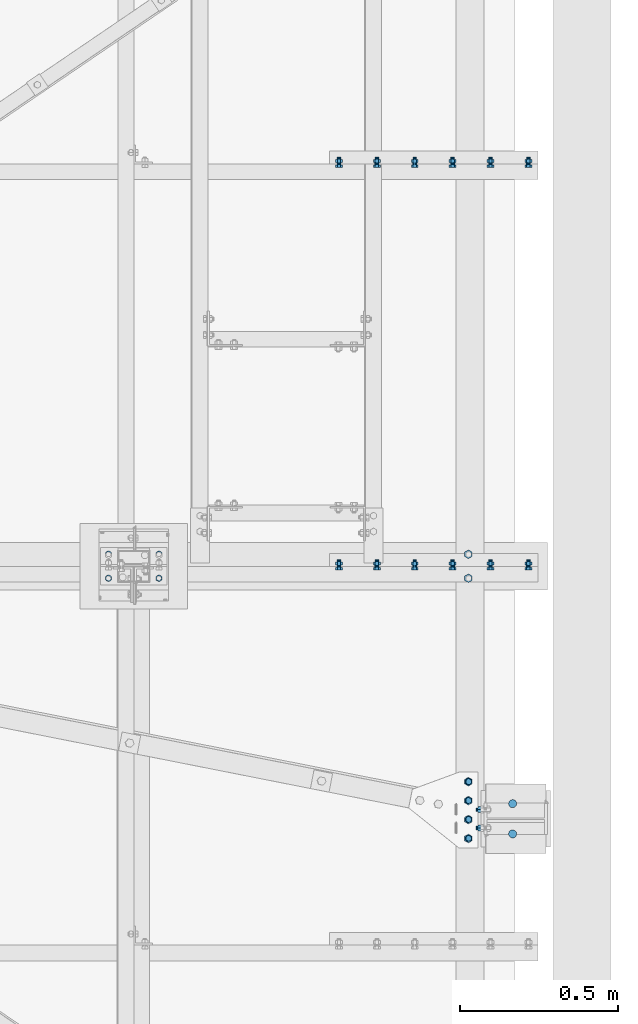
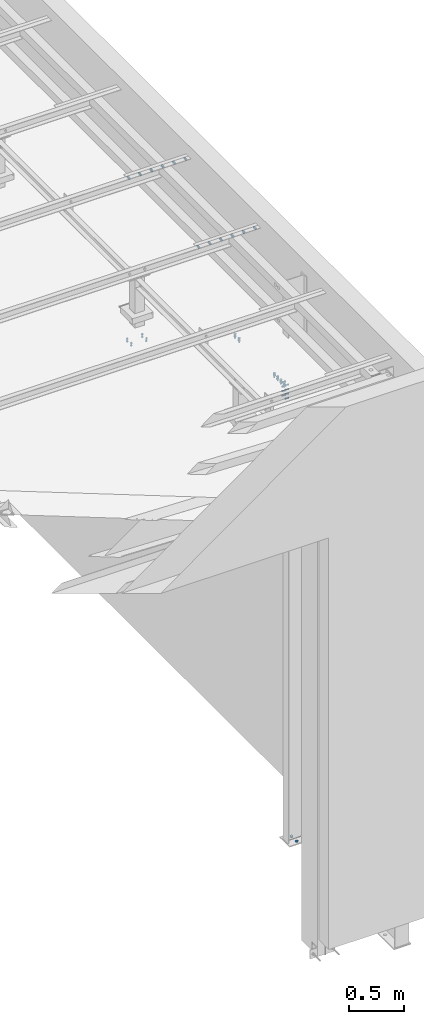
# One storey, part 342 of 3134: 8 mechanical fasteners, 6 elements without a shape of their own.
"""IFC2X3 building model written with IfcOpenShell, lengths in millimetres."""

import ifcopenshell
import ifcopenshell.guid

model = None  # the IFC model being written
_history = None  # IfcOwnerHistory: only IFC2X3 demands one
_inside = {}  # id of a spatial element -> (the spatial element, [elements in it])
_under = {}  # id of a project, library or spatial element -> (it, [spatial elements below it])
_declared = {}  # id of a project -> (the project, [libraries it declares])
_typed = {}  # id of a type object -> (the type object, [elements of that type])
_made_of = {}  # id of a material, layer set ... -> (it, [elements and type objects made of it])


def new_model(schema):
    """Start an empty IFC model of exactly this schema.

    Asked for "IFC4X3", IfcOpenShell would pick the latest addendum, in which some entities
    have other attributes; the version numbers below select the first issue.
    IFC2X3 requires an IfcOwnerHistory on every rooted entity: one is made here for all.
    """
    global model, _history
    if schema == "IFC4X3":
        model = ifcopenshell.file(schema_version=(4, 3, 0, 0))
    else:
        model = ifcopenshell.file(schema=schema)
    _inside.clear()
    _under.clear()
    _declared.clear()
    _typed.clear()
    _made_of.clear()
    _history = None
    if model.schema == "IFC2X3":
        org = make("IfcOrganization", Name="unknown")
        user = make(
            "IfcPersonAndOrganization",
            ThePerson=make("IfcPerson", FamilyName="unknown"),
            TheOrganization=org,
        )
        app = make(
            "IfcApplication",
            ApplicationDeveloper=org,
            Version="unknown",
            ApplicationFullName="unknown",
            ApplicationIdentifier="unknown",
        )
        _history = make(
            "IfcOwnerHistory",
            OwningUser=user,
            OwningApplication=app,
            ChangeAction="ADDED",
            CreationDate=0,
        )
    return model


def make(cls, **values):
    """One entity of the class cls with the attributes given. An attribute that is None is left unset."""
    return model.create_entity(
        cls, **{name: value for name, value in values.items() if value is not None}
    )


def rooted(cls, **values):
    """An entity with a GlobalId (a new one), such as an element, a storey or a relation."""
    return make(cls, GlobalId=ifcopenshell.guid.new(), OwnerHistory=_history, **values)


def si_unit(unit_type, name, prefix=None):
    """IfcSIUnit, for example si_unit("LENGTHUNIT", "METRE", prefix="MILLI")."""
    return make("IfcSIUnit", UnitType=unit_type, Prefix=prefix, Name=name)


def assignment(units):
    """IfcUnitAssignment: the units of a project."""
    return None if units is None else make("IfcUnitAssignment", Units=units)


def point(xyz):
    """IfcCartesianPoint."""
    return None if xyz is None else make("IfcCartesianPoint", Coordinates=xyz)


def direction(xyz):
    """IfcDirection."""
    return None if xyz is None else make("IfcDirection", DirectionRatios=xyz)


def frame(location, z_axis=None, x_axis=None):
    """IfcAxis2Placement3D, a coordinate frame: its origin and axes. An axis left out is left unset."""
    return make(
        "IfcAxis2Placement3D",
        Location=point(location),
        Axis=direction(z_axis),
        RefDirection=direction(x_axis),
    )


def origin_with_axes():
    """The frame at (0, 0, 0) with the z axis (0, 0, 1) and the x axis (1, 0, 0) written out."""
    return frame((0.0, 0.0, 0.0), z_axis=(0.0, 0.0, 1.0), x_axis=(1.0, 0.0, 0.0))


def place(relative_to, where):
    """IfcLocalPlacement: puts the frame where relative to a parent placement (None: the world)."""
    return make(
        "IfcLocalPlacement", PlacementRelTo=relative_to, RelativePlacement=where
    )


def context(
    kind, dimensions, precision=None, world=None, true_north=None, identifier=None
):
    """IfcGeometricRepresentationContext, for example the 3D "Model" context."""
    return make(
        "IfcGeometricRepresentationContext",
        ContextIdentifier=identifier,
        ContextType=kind,
        CoordinateSpaceDimension=dimensions,
        Precision=precision,
        WorldCoordinateSystem=world,
        TrueNorth=true_north,
    )


def subcontext(parent, identifier, kind, view, scale=None):
    """IfcGeometricRepresentationSubContext, for example "Body" below "Model"."""
    return make(
        "IfcGeometricRepresentationSubContext",
        ContextIdentifier=identifier,
        ContextType=kind,
        ParentContext=parent,
        TargetScale=scale,
        TargetView=view,
    )


def project(units=None, contexts=None):
    """IfcProject with its units and contexts."""
    return rooted(
        "IfcProject",
        Name="project",
        RepresentationContexts=contexts,
        UnitsInContext=assignment(units),
    )


def spatial(cls, under=None, at=None, **own):
    """A site, building, storey or space (cls), placed at a placement, below another one or the project."""
    s = rooted(cls, ObjectPlacement=at, **own)
    if under is not None:
        _under.setdefault(under.id(), (under, []))[1].append(s)
    return s


def faces_of(points, faces, orient=None, outer=None):
    """IfcFace entities. A face is a list of loops; a loop is a list of indices into points, from 0.

    orient and outer hold one flag for each loop. By default every Orientation is true, the
    first loop of a face is its IfcFaceOuterBound and the others are IfcFaceBound.
    """
    made = []
    for i, loops in enumerate(faces):
        bounds = []
        for j, loop in enumerate(loops):
            is_outer = j == 0 if outer is None else outer[i][j]
            bounds.append(
                make(
                    "IfcFaceOuterBound" if is_outer else "IfcFaceBound",
                    Bound=make("IfcPolyLoop", Polygon=[points[k] for k in loop]),
                    Orientation=True if orient is None else orient[i][j],
                )
            )
        made.append(make("IfcFace", Bounds=bounds))
    return made


def faceted_brep(points, faces, orient=None, outer=None, voids=None):
    """IfcFacetedBrep: a solid bounded by flat faces; with voids (closed shells), ...WithVoids."""
    shared = [point(p) for p in points]
    hull = make("IfcClosedShell", CfsFaces=faces_of(shared, faces, orient, outer))
    if voids is None:
        return make("IfcFacetedBrep", Outer=hull)
    return make(
        "IfcFacetedBrepWithVoids",
        Outer=hull,
        Voids=[
            make(cls, CfsFaces=faces_of(shared, fs, o, b)) for cls, fs, o, b in voids
        ],
    )


def shape(context_of_items, identifier, shape_type, items):
    """IfcShapeRepresentation: the items that make up one representation, for example the "Body"."""
    return make(
        "IfcShapeRepresentation",
        ContextOfItems=context_of_items,
        RepresentationIdentifier=identifier,
        RepresentationType=shape_type,
        Items=items,
    )


def source(mapping_origin, context_of_items, identifier, shape_type, items):
    """IfcRepresentationMap: a shape defined once, which mapped items show again and again."""
    return make(
        "IfcRepresentationMap",
        MappingOrigin=mapping_origin,
        MappedRepresentation=shape(context_of_items, identifier, shape_type, items),
    )


def transform(
    local_origin,
    x_axis=None,
    y_axis=None,
    z_axis=None,
    scale=None,
    scale2=None,
    scale3=None,
    uniform=True,
):
    """IfcCartesianTransformationOperator3D, or its non-uniform kind. x_axis, y_axis, z_axis: its Axis1, 2, 3."""
    if uniform:
        return make(
            "IfcCartesianTransformationOperator3D",
            Axis1=direction(x_axis),
            Axis2=direction(y_axis),
            LocalOrigin=point(local_origin),
            Scale=scale,
            Axis3=direction(z_axis),
        )
    return make(
        "IfcCartesianTransformationOperator3DnonUniform",
        Axis1=direction(x_axis),
        Axis2=direction(y_axis),
        LocalOrigin=point(local_origin),
        Scale=scale,
        Axis3=direction(z_axis),
        Scale2=scale2,
        Scale3=scale3,
    )


def mapped(mapping_source, mapping_target):
    """IfcMappedItem: shows the shape of a source again, moved by a transform."""
    return make(
        "IfcMappedItem", MappingSource=mapping_source, MappingTarget=mapping_target
    )


def material(Name=None, Category=None):
    """IfcMaterial."""
    return make("IfcMaterial", Name=Name, Category=Category)


def made_of(thing, what):
    """Note that an element or type object is made of a material, layer set ...; save() writes the relation."""
    if what is not None:
        _made_of.setdefault(what.id(), (what, []))[1].append(thing)
    return thing


def type_object(cls, material=None, **own):
    """A type object (cls), such as IfcWallType, which elements share."""
    return made_of(rooted(cls, **own), material)


def element(
    cls,
    number,
    at=None,
    inside=None,
    cuts=None,
    type_object=None,
    material=None,
    context=None,
    identifier="Body",
    shape_type=None,
    held_by="IfcProductDefinitionShape",
    body=None,
    shapes=None,
    **own,
):
    """One element of the class cls, such as IfcWall. Its Tag is "e" and its number.

    at: its placement. inside: the storey or other place that contains it. cuts: it is an
    opening in that element (IfcRelVoidsElement). A single representation is given by context,
    identifier, shape_type and body (its items); several are given by shapes. held_by: the class
    of the entity that holds the representations. save() writes the other relations.
    """
    e = rooted(cls, Tag="e%d" % number, ObjectPlacement=at, **own)
    if body is not None:
        shapes = [shape(context, identifier, shape_type, body)]
    if shapes is not None:
        e.Representation = make(held_by, Representations=shapes)
    if inside is not None:
        _inside.setdefault(inside.id(), (inside, []))[1].append(e)
    if cuts is not None:
        rooted(
            "IfcRelVoidsElement", RelatingBuildingElement=cuts, RelatedOpeningElement=e
        )
    if type_object is not None:
        _typed.setdefault(type_object.id(), (type_object, []))[1].append(e)
    return made_of(e, material)


def aggregate(whole, parts):
    """IfcRelAggregates: a whole, such as a stair, and the parts it consists of."""
    return rooted("IfcRelAggregates", RelatingObject=whole, RelatedObjects=parts)


def save(model, path):
    """Write the relations noted so far, then the file.

    IfcRelAggregates (storeys below a building ...), IfcRelContainedInSpatialStructure (elements
    in a storey), IfcRelDefinesByType, IfcRelAssociatesMaterial and IfcRelDeclares: one each for
    every whole, place, type object, material and project.
    """
    for whole, parts in _under.values():
        aggregate(whole, parts)
    for where, things in _inside.values():
        rooted(
            "IfcRelContainedInSpatialStructure",
            RelatedElements=things,
            RelatingStructure=where,
        )
    for kind, things in _typed.values():
        rooted("IfcRelDefinesByType", RelatedObjects=things, RelatingType=kind)
    for what, things in _made_of.values():
        rooted("IfcRelAssociatesMaterial", RelatedObjects=things, RelatingMaterial=what)
    for by, libraries in _declared.values():
        rooted("IfcRelDeclares", RelatingContext=by, RelatedDefinitions=libraries)
    model.write(path)


model = new_model("IFC2X3")

# Units and contexts
model_context = context("Model", 3, precision=1e-05, world=origin_with_axes())
body_context = subcontext(model_context, "Body", "Model", "MODEL_VIEW")
ifc_project = project(units=[si_unit("LENGTHUNIT", "METRE", prefix="MILLI"), si_unit("AREAUNIT", "SQUARE_METRE"), si_unit("VOLUMEUNIT", "CUBIC_METRE"), si_unit("MASSUNIT", "GRAM", prefix="KILO"), si_unit("TIMEUNIT", "SECOND"), si_unit("PLANEANGLEUNIT", "RADIAN"), si_unit("SOLIDANGLEUNIT", "STERADIAN"), si_unit("THERMODYNAMICTEMPERATUREUNIT", "DEGREE_CELSIUS"), si_unit("LUMINOUSINTENSITYUNIT", "LUMEN")], contexts=[model_context])

# Site, building, storey
site_placement = place(None, origin_with_axes())
site = spatial("IfcSite", under=ifc_project, at=site_placement, CompositionType="ELEMENT")
building_placement = place(site_placement, origin_with_axes())
building = spatial("IfcBuilding", under=site, at=building_placement, Name="Undefined", CompositionType="ELEMENT")
storey_placement = place(building_placement, origin_with_axes())
storey = spatial("IfcBuildingStorey", under=building, at=storey_placement, Name="Undefined", CompositionType="ELEMENT", Elevation=0.0)

# Assembly, mechanical fasteners
assembly_1_placement = place(storey_placement, origin_with_axes())
assembly_1 = element("IfcElementAssembly", 1, at=assembly_1_placement, inside=storey, Name="IPE200", AssemblyPlace="NOTDEFINED", PredefinedType="RIGID_FRAME")
ifc_material = material(Name="8.8")
mechanical_fastener_type = type_object("IfcMechanicalFastenerType", Name="Bolt assembly")
shared_shape_1 = source(origin_with_axes(), body_context, "Body", "Brep", [
    faceted_brep([(13.0, 0.0, 0.0), (11.2583302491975, 0.0, 6.50000000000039), (6.49999999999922, 0.0, 11.2583302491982), (-1.34723677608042e-12, 0.0, 13.0), (-6.50000000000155, 0.0, 11.2583302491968), (-11.2583302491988, 0.0, 6.49999999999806), (-13.0, 0.0, -2.69447355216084e-12), (-11.2583302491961, 0.0, -6.50000000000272), (-6.4999999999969, 0.0, -11.2583302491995), (4.02727742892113e-12, 0.0, -13.0), (6.50000000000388, 0.0, -11.2583302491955), (11.2583302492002, 0.0, -6.49999999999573), (11.2583302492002, 12.1, -6.49999999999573), (6.50000000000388, 12.1, -11.2583302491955), (4.02727742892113e-12, 12.1, -13.0), (-6.4999999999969, 12.1, -11.2583302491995), (-11.2583302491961, 12.1, -6.50000000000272), (-13.0, 12.1, -2.69447355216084e-12), (-11.2583302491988, 12.1, 6.49999999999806), (-6.50000000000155, 12.1, 11.2583302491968), (-1.34723677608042e-12, 12.1, 13.0), (6.49999999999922, 12.1, 11.2583302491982), (11.2583302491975, 12.1, 6.50000000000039), (13.0, 12.1, 0.0)], [[[0, 1, 2, 3, 4, 5, 6, 7, 8, 9, 10, 11]], [[12, 13, 14, 15, 16, 17, 18, 19, 20, 21, 22, 23]], [[0, 23, 22, 1]], [[1, 22, 21, 2]], [[2, 21, 20, 3]], [[3, 20, 19, 4]], [[4, 19, 18, 5]], [[5, 18, 17, 6]], [[6, 17, 16, 7]], [[7, 16, 15, 8]], [[8, 15, 14, 9]], [[9, 14, 13, 10]], [[10, 13, 12, 11]], [[11, 12, 23, 0]]]),
])
mechanical_fastener_1_placement = place(assembly_1_placement, frame((79225.0, 1750.0, -400.0), z_axis=(0.0, -1.0, 0.0), x_axis=(1.0, 0.0, 0.0)))
mechanical_fastener_1 = element("IfcMechanicalFastener", 2, at=mechanical_fastener_1_placement, type_object=mechanical_fastener_type, material=ifc_material, Name="Bolt assembly", NominalDiameter=24.0, NominalLength=12.0, context=body_context, shape_type="MappedRepresentation", body=[
    mapped(shared_shape_1, transform((0.0, 0.0, -48.0))),
    mapped(shared_shape_1, transform((0.0, 0.0, 48.0))),
])
shared_shape_2 = source(origin_with_axes(), body_context, "Body", "Brep", [
    faceted_brep([(10.9696551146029, -16.5, 0.0), (5.48482755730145, -16.5, 9.5), (-5.48482755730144, -16.5, 9.5), (-10.9696551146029, -16.5, 1.34339530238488e-15), (-5.48482755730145, -16.5, -9.5), (5.48482755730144, -16.5, -9.50000000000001), (5.48482755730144, -8.5, -9.50000000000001), (-5.48482755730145, -8.5, -9.5), (-10.9696551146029, -8.5, 1.34339530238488e-15), (-5.48482755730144, -8.5, 9.5), (5.48482755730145, -8.5, 9.5), (10.9696551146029, -8.5, 0.0), (6.0, -8.5, 0.0), (5.19615242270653, -8.5, 3.00000000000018), (2.99999999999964, -8.5, 5.19615242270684), (-6.21801588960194e-13, -8.5, 6.0), (-3.00000000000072, -8.5, 5.19615242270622), (-5.19615242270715, -8.5, 2.9999999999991), (-6.0, -8.5, -1.24360317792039e-12), (-5.19615242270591, -8.5, -3.00000000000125), (-2.99999999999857, -8.5, -5.19615242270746), (1.85874342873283e-12, -8.5, -6.0), (3.00000000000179, -8.5, -5.1961524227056), (5.19615242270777, -8.5, -2.99999999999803), (5.19615242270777, 26.5, -2.99999999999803), (3.00000000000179, 26.5, -5.1961524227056), (1.85874342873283e-12, 26.5, -6.0), (-2.99999999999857, 26.5, -5.19615242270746), (-5.19615242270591, 26.5, -3.00000000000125), (-6.0, 26.5, -1.24360317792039e-12), (-5.19615242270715, 26.5, 2.9999999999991), (-3.00000000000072, 26.5, 5.19615242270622), (-6.21801588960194e-13, 26.5, 6.0), (2.99999999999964, 26.5, 5.19615242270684), (5.19615242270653, 26.5, 3.00000000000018), (6.0, 26.5, 0.0), (10.9696551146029, 10.0, 0.0), (5.48482755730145, 10.0, 9.5), (-5.48482755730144, 10.0, 9.5), (-10.9696551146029, 10.0, 1.34339530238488e-15), (-5.48482755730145, 10.0, -9.5), (5.48482755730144, 10.0, -9.50000000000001), (5.48482755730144, 20.0, -9.50000000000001), (-5.48482755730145, 20.0, -9.5), (-10.9696551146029, 20.0, 1.34339530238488e-15), (-5.48482755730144, 20.0, 9.5), (5.48482755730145, 20.0, 9.5), (10.9696551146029, 20.0, 0.0)], [[[0, 1, 2, 3, 4, 5]], [[6, 7, 8, 9, 10, 11]], [[0, 11, 10, 1]], [[1, 10, 9, 2]], [[2, 9, 8, 3]], [[3, 8, 7, 4]], [[4, 7, 6, 5]], [[5, 6, 11, 0]], [[12, 13, 14, 15, 16, 17, 18, 19, 20, 21, 22, 23]], [[24, 25, 26, 27, 28, 29, 30, 31, 32, 33, 34, 35]], [[12, 35, 34, 13]], [[13, 34, 33, 14]], [[14, 33, 32, 15]], [[15, 32, 31, 16]], [[16, 31, 30, 17]], [[17, 30, 29, 18]], [[18, 29, 28, 19]], [[19, 28, 27, 20]], [[20, 27, 26, 21]], [[21, 26, 25, 22]], [[22, 25, 24, 23]], [[23, 24, 35, 12]], [[36, 37, 38, 39, 40, 41]], [[42, 43, 44, 45, 46, 47]], [[36, 47, 46, 37]], [[37, 46, 45, 38]], [[38, 45, 44, 39]], [[39, 44, 43, 40]], [[40, 43, 42, 41]], [[41, 42, 47, 36]]]),
    faceted_brep([(7.0, -0.1, 0.0), (6.06217782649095, -0.1, 3.50000000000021), (3.49999999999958, -0.1, 6.06217782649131), (-7.25435187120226e-13, -0.1, 7.0), (-3.50000000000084, -0.1, 6.06217782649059), (-6.06217782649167, -0.1, 3.49999999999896), (-7.0, -0.1, -1.45087037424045e-12), (-6.06217782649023, -0.1, -3.50000000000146), (-3.49999999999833, -0.1, -6.06217782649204), (2.1685340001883e-12, -0.1, -7.0), (3.50000000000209, -0.1, -6.06217782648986), (6.0621778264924, -0.1, -3.4999999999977), (6.0621778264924, 10.0, -3.4999999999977), (3.50000000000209, 10.0, -6.06217782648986), (2.1685340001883e-12, 10.0, -7.0), (-3.49999999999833, 10.0, -6.06217782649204), (-6.06217782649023, 10.0, -3.50000000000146), (-7.0, 10.0, -1.45087037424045e-12), (-6.06217782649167, 10.0, 3.49999999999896), (-3.50000000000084, 10.0, 6.06217782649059), (-7.25435187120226e-13, 10.0, 7.0), (3.49999999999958, 10.0, 6.06217782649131), (6.06217782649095, 10.0, 3.50000000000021), (7.0, 10.0, 0.0), (7.0, -8.4, 0.0), (6.06217782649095, -8.4, 3.50000000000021), (3.49999999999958, -8.4, 6.06217782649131), (-7.25435187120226e-13, -8.4, 7.0), (-3.50000000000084, -8.4, 6.06217782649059), (-6.06217782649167, -8.4, 3.49999999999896), (-7.0, -8.4, -1.45087037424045e-12), (-6.06217782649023, -8.4, -3.50000000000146), (-3.49999999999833, -8.4, -6.06217782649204), (2.1685340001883e-12, -8.4, -7.0), (3.50000000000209, -8.4, -6.06217782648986), (6.0621778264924, -8.4, -3.4999999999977), (6.0621778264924, 0.0999999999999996, -3.4999999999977), (3.50000000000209, 0.0999999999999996, -6.06217782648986), (2.1685340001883e-12, 0.0999999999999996, -7.0), (-3.49999999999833, 0.0999999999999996, -6.06217782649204), (-6.06217782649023, 0.0999999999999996, -3.50000000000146), (-7.0, 0.0999999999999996, -1.45087037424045e-12), (-6.06217782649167, 0.0999999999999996, 3.49999999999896), (-3.50000000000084, 0.0999999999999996, 6.06217782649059), (-7.25435187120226e-13, 0.0999999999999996, 7.0), (3.49999999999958, 0.0999999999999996, 6.06217782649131), (6.06217782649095, 0.0999999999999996, 3.50000000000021), (7.0, 0.0999999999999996, 0.0)], [[[0, 1, 2, 3, 4, 5, 6, 7, 8, 9, 10, 11]], [[12, 13, 14, 15, 16, 17, 18, 19, 20, 21, 22, 23]], [[0, 23, 22, 1]], [[1, 22, 21, 2]], [[2, 21, 20, 3]], [[3, 20, 19, 4]], [[4, 19, 18, 5]], [[5, 18, 17, 6]], [[6, 17, 16, 7]], [[7, 16, 15, 8]], [[8, 15, 14, 9]], [[9, 14, 13, 10]], [[10, 13, 12, 11]], [[11, 12, 23, 0]], [[24, 25, 26, 27, 28, 29, 30, 31, 32, 33, 34, 35]], [[36, 37, 38, 39, 40, 41, 42, 43, 44, 45, 46, 47]], [[24, 47, 46, 25]], [[25, 46, 45, 26]], [[26, 45, 44, 27]], [[27, 44, 43, 28]], [[28, 43, 42, 29]], [[29, 42, 41, 30]], [[30, 41, 40, 31]], [[31, 40, 39, 32]], [[32, 39, 38, 33]], [[33, 38, 37, 34]], [[34, 37, 36, 35]], [[35, 36, 47, 24]]]),
])
mechanical_fastener_2_placement = place(assembly_1_placement, frame((79135.0, 1750.0, 4728.722486), z_axis=(0.0, 1.0, 0.0), x_axis=(0.0, 0.0, -1.0)))
mechanical_fastener_2 = element("IfcMechanicalFastener", 3, at=mechanical_fastener_2_placement, type_object=mechanical_fastener_type, material=ifc_material, Name="Bolt assembly", NominalDiameter=12.0, NominalLength=35.0, context=body_context, shape_type="MappedRepresentation", body=[
    mapped(shared_shape_2, transform((-2.63753463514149e-11, 0.0, -28.9999999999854))),
    mapped(shared_shape_2, transform((50.0, 0.0, -29.0))),
    mapped(shared_shape_2, transform((100.0, 0.0, -29.0))),
    mapped(shared_shape_2, transform((150.0, 0.0, -29.0))),
    mapped(shared_shape_2, transform((2.63753463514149e-11, 0.0, 28.9999999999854))),
    mapped(shared_shape_2, transform((50.0, 0.0, 29.0))),
    mapped(shared_shape_2, transform((100.0, 0.0, 29.0))),
    mapped(shared_shape_2, transform((150.0, 0.0, 29.0))),
])
aggregate(assembly_1, [mechanical_fastener_2, mechanical_fastener_1])

assembly_2_placement = place(storey_placement, origin_with_axes())
assembly_2 = element("IfcElementAssembly", 4, at=assembly_2_placement, inside=storey, Name="UPN260", AssemblyPlace="NOTDEFINED", PredefinedType="RIGID_FRAME")
shared_shape_3 = source(origin_with_axes(), body_context, "Body", "Brep", [
    faceted_brep([(13.856406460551, -10.0, 0.0), (6.92820323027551, -10.0, 12.0), (-6.92820323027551, -10.0, 12.0), (-13.856406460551, -10.0, 1.69692038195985e-15), (-6.92820323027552, -10.0, -12.0), (6.9282032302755, -10.0, -12.0), (6.9282032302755, 0.0, -12.0), (-6.92820323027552, 0.0, -12.0), (-13.856406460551, 0.0, 1.69692038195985e-15), (-6.92820323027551, 0.0, 12.0), (6.92820323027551, 0.0, 12.0), (13.856406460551, 0.0, 0.0), (8.0, 0.0, 0.0), (6.92820323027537, 0.0, 4.00000000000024), (3.99999999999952, 0.0, 6.92820323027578), (-8.29068785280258e-13, 0.0, 8.0), (-4.00000000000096, 0.0, 6.92820323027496), (-6.9282032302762, 0.0, 3.99999999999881), (-8.0, 0.0, -1.65813757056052e-12), (-6.92820323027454, 0.0, -4.00000000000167), (-3.99999999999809, 0.0, -6.92820323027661), (2.47832457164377e-12, 0.0, -8.0), (4.00000000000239, 0.0, -6.92820323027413), (6.92820323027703, 0.0, -3.99999999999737), (6.92820323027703, 45.0, -3.99999999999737), (4.00000000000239, 45.0, -6.92820323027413), (2.47832457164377e-12, 45.0, -8.0), (-3.99999999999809, 45.0, -6.92820323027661), (-6.92820323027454, 45.0, -4.00000000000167), (-8.0, 45.0, -1.65813757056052e-12), (-6.9282032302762, 45.0, 3.99999999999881), (-4.00000000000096, 45.0, 6.92820323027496), (-8.29068785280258e-13, 45.0, 8.0), (3.99999999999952, 45.0, 6.92820323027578), (6.92820323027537, 45.0, 4.00000000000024), (8.0, 45.0, 0.0), (13.856406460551, 13.9999999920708, 0.0), (6.92820323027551, 13.9999999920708, 12.0), (-6.92820323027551, 13.9999999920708, 12.0), (-13.856406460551, 13.9999999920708, 1.69692038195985e-15), (-6.92820323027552, 13.9999999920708, -12.0), (6.9282032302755, 13.9999999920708, -12.0), (6.9282032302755, 27.0, -12.0), (-6.92820323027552, 27.0, -12.0), (-13.856406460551, 27.0, 1.69692038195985e-15), (-6.92820323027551, 27.0, 12.0), (6.92820323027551, 27.0, 12.0), (13.856406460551, 27.0, 0.0)], [[[0, 1, 2, 3, 4, 5]], [[6, 7, 8, 9, 10, 11]], [[0, 11, 10, 1]], [[1, 10, 9, 2]], [[2, 9, 8, 3]], [[3, 8, 7, 4]], [[4, 7, 6, 5]], [[5, 6, 11, 0]], [[12, 13, 14, 15, 16, 17, 18, 19, 20, 21, 22, 23]], [[24, 25, 26, 27, 28, 29, 30, 31, 32, 33, 34, 35]], [[12, 35, 34, 13]], [[13, 34, 33, 14]], [[14, 33, 32, 15]], [[15, 32, 31, 16]], [[16, 31, 30, 17]], [[17, 30, 29, 18]], [[18, 29, 28, 19]], [[19, 28, 27, 20]], [[20, 27, 26, 21]], [[21, 26, 25, 22]], [[22, 25, 24, 23]], [[23, 24, 35, 12]], [[36, 37, 38, 39, 40, 41]], [[42, 43, 44, 45, 46, 47]], [[36, 47, 46, 37]], [[37, 46, 45, 38]], [[38, 45, 44, 39]], [[39, 44, 43, 40]], [[40, 43, 42, 41]], [[41, 42, 47, 36]]]),
    faceted_brep([(9.0, -3.46568413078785e-07, 0.0), (7.79422863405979, -3.46568413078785e-07, 4.50000000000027), (4.49999999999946, -3.46568413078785e-07, 7.79422863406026), (-9.3270238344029e-13, -3.46568413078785e-07, 9.0), (-4.50000000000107, -3.46568413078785e-07, 7.79422863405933), (-7.79422863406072, -3.46568413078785e-07, 4.49999999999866), (-9.0, -3.46568413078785e-07, -1.86540476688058e-12), (-7.79422863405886, -3.46568413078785e-07, -4.50000000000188), (-4.49999999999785, -3.46568413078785e-07, -7.79422863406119), (2.78811514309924e-12, -3.46568413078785e-07, -9.0), (4.50000000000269, -3.46568413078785e-07, -7.7942286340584), (7.79422863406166, -3.46568413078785e-07, -4.49999999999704), (7.79422863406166, 14.1000000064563, -4.49999999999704), (4.50000000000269, 14.1000000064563, -7.7942286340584), (2.78811514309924e-12, 14.1000000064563, -9.0), (-4.49999999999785, 14.1000000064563, -7.79422863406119), (-7.79422863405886, 14.1000000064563, -4.50000000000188), (-9.0, 14.1000000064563, -1.86540476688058e-12), (-7.79422863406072, 14.1000000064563, 4.49999999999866), (-4.50000000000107, 14.1000000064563, 7.79422863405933), (-9.3270238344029e-13, 14.1000000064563, 9.0), (4.49999999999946, 14.1000000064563, 7.79422863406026), (7.79422863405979, 14.1000000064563, 4.50000000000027), (9.0, 14.1000000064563, 0.0)], [[[0, 1, 2, 3, 4, 5, 6, 7, 8, 9, 10, 11]], [[12, 13, 14, 15, 16, 17, 18, 19, 20, 21, 22, 23]], [[0, 23, 22, 1]], [[1, 22, 21, 2]], [[2, 21, 20, 3]], [[3, 20, 19, 4]], [[4, 19, 18, 5]], [[5, 18, 17, 6]], [[6, 17, 16, 7]], [[7, 16, 15, 8]], [[8, 15, 14, 9]], [[9, 14, 13, 10]], [[10, 13, 12, 11]], [[11, 12, 23, 0]]]),
])
mechanical_fastener_3_placement = place(assembly_2_placement, frame((79084.9240640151, 1867.68138619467, 4783.72248606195), z_axis=(1.0, 0.0, 0.0), x_axis=(0.0, -1.0, 0.0)))
mechanical_fastener_3 = element("IfcMechanicalFastener", 5, at=mechanical_fastener_3_placement, type_object=mechanical_fastener_type, material=ifc_material, Name="Bolt assembly", NominalDiameter=16.0, NominalLength=45.0, context=body_context, shape_type="MappedRepresentation", body=[
    mapped(shared_shape_3, transform((0.0, 0.0, 0.0))),
    mapped(shared_shape_3, transform((59.9999999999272, 0.0, 5.40239852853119e-10))),
    mapped(shared_shape_3, transform((120.0, 0.0, 0.0))),
    mapped(shared_shape_3, transform((180.0, 0.0, 0.0))),
])
mechanical_fastener_4_placement = place(assembly_2_placement, frame((79085.0, 2512.0, 4783.722486), z_axis=(-1.0, 0.0, 0.0), x_axis=(0.0, 1.0, 0.0)))
mechanical_fastener_4 = element("IfcMechanicalFastener", 6, at=mechanical_fastener_4_placement, type_object=mechanical_fastener_type, material=ifc_material, Name="Bolt assembly", NominalDiameter=16.0, NominalLength=45.0, context=body_context, shape_type="MappedRepresentation", body=[
    mapped(shared_shape_3, transform((0.0, 0.0, 0.0))),
    mapped(shared_shape_3, transform((76.0, 0.0, 0.0))),
])
aggregate(assembly_2, [mechanical_fastener_3, mechanical_fastener_4])

# Assembly, mechanical fastener
assembly_3_placement = place(storey_placement, origin_with_axes())
assembly_3 = element("IfcElementAssembly", 7, at=assembly_3_placement, inside=storey, Name="PL8", AssemblyPlace="NOTDEFINED", PredefinedType="RIGID_FRAME")
shared_shape_4 = source(origin_with_axes(), body_context, "Body", "Brep", [
    faceted_brep([(9.0, -3.99999624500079, 0.0), (7.79422863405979, -3.99999624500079, 4.50000000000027), (4.49999999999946, -3.99999624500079, 7.79422863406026), (-9.3270238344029e-13, -3.99999624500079, 9.0), (-4.50000000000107, -3.99999624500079, 7.79422863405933), (-7.79422863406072, -3.99999624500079, 4.49999999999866), (-9.0, -3.99999624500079, -1.86540476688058e-12), (-7.79422863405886, -3.99999624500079, -4.50000000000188), (-4.49999999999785, -3.99999624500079, -7.79422863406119), (2.78811514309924e-12, -3.99999624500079, -9.0), (4.50000000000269, -3.99999624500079, -7.7942286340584), (7.79422863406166, -3.99999624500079, -4.49999999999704), (7.79422863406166, 4.09999854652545, -4.49999999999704), (4.50000000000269, 4.09999854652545, -7.7942286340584), (2.78811514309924e-12, 4.09999854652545, -9.0), (-4.49999999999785, 4.09999854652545, -7.79422863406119), (-7.79422863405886, 4.09999854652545, -4.50000000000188), (-9.0, 4.09999854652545, -1.86540476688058e-12), (-7.79422863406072, 4.09999854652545, 4.49999999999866), (-4.50000000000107, 4.09999854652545, 7.79422863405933), (-9.3270238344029e-13, 4.09999854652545, 9.0), (4.49999999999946, 4.09999854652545, 7.79422863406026), (7.79422863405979, 4.09999854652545, 4.50000000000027), (9.0, 4.09999854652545, 0.0)], [[[0, 1, 2, 3, 4, 5, 6, 7, 8, 9, 10, 11]], [[12, 13, 14, 15, 16, 17, 18, 19, 20, 21, 22, 23]], [[0, 23, 22, 1]], [[1, 22, 21, 2]], [[2, 21, 20, 3]], [[3, 20, 19, 4]], [[4, 19, 18, 5]], [[5, 18, 17, 6]], [[6, 17, 16, 7]], [[7, 16, 15, 8]], [[8, 15, 14, 9]], [[9, 14, 13, 10]], [[10, 13, 12, 11]], [[11, 12, 23, 0]]]),
])
mechanical_fastener_5_placement = place(assembly_3_placement, frame((79084.9240642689, 1687.68138619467, 4781.27291769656), z_axis=(-0.999519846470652, 0.0, 0.0309851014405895), x_axis=(0.0, 1.0, 0.0)))
mechanical_fastener_5 = element("IfcMechanicalFastener", 8, at=mechanical_fastener_5_placement, type_object=mechanical_fastener_type, material=ifc_material, Name="Bolt assembly", NominalDiameter=16.0, NominalLength=8.0, context=body_context, shape_type="MappedRepresentation", body=[
    mapped(shared_shape_4, transform((0.0, 0.0, 0.0))),
    mapped(shared_shape_4, transform((59.9999999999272, 0.0, 5.40239852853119e-10))),
    mapped(shared_shape_4, transform((120.0, 0.0, 0.0))),
    mapped(shared_shape_4, transform((180.0, 0.0, 0.0))),
])
aggregate(assembly_3, [mechanical_fastener_5])

assembly_4_placement = place(storey_placement, origin_with_axes())
assembly_4 = element("IfcElementAssembly", 9, at=assembly_4_placement, inside=storey, AssemblyPlace="NOTDEFINED", PredefinedType="RIGID_FRAME")
shared_shape_5 = source(origin_with_axes(), body_context, "Body", "Brep", [
    faceted_brep([(10.9696551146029, -12.0, 0.0), (5.48482755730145, -12.0, 9.5), (-5.48482755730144, -12.0, 9.5), (-10.9696551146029, -12.0, 1.34339530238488e-15), (-5.48482755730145, -12.0, -9.5), (5.48482755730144, -12.0, -9.50000000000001), (5.48482755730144, -4.0, -9.50000000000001), (-5.48482755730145, -4.0, -9.5), (-10.9696551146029, -4.0, 1.34339530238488e-15), (-5.48482755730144, -4.0, 9.5), (5.48482755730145, -4.0, 9.5), (10.9696551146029, -4.0, 0.0), (6.0, -4.0, 0.0), (5.19615242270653, -4.0, 3.00000000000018), (2.99999999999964, -4.0, 5.19615242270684), (-6.21801588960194e-13, -4.0, 6.0), (-3.00000000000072, -4.0, 5.19615242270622), (-5.19615242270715, -4.0, 2.9999999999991), (-6.0, -4.0, -1.24360317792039e-12), (-5.19615242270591, -4.0, -3.00000000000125), (-2.99999999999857, -4.0, -5.19615242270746), (1.85874342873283e-12, -4.0, -6.0), (3.00000000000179, -4.0, -5.1961524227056), (5.19615242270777, -4.0, -2.99999999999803), (5.19615242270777, 21.0, -2.99999999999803), (3.00000000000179, 21.0, -5.1961524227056), (1.85874342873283e-12, 21.0, -6.0), (-2.99999999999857, 21.0, -5.19615242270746), (-5.19615242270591, 21.0, -3.00000000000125), (-6.0, 21.0, -1.24360317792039e-12), (-5.19615242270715, 21.0, 2.9999999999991), (-3.00000000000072, 21.0, 5.19615242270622), (-6.21801588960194e-13, 21.0, 6.0), (2.99999999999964, 21.0, 5.19615242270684), (5.19615242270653, 21.0, 3.00000000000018), (6.0, 21.0, 0.0), (10.9696551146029, 4.00000000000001, 0.0), (5.48482755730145, 4.00000000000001, 9.5), (-5.48482755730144, 4.00000000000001, 9.5), (-10.9696551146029, 4.00000000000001, 1.34339530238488e-15), (-5.48482755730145, 4.00000000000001, -9.5), (5.48482755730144, 4.00000000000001, -9.50000000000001), (5.48482755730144, 14.0, -9.50000000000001), (-5.48482755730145, 14.0, -9.5), (-10.9696551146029, 14.0, 1.34339530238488e-15), (-5.48482755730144, 14.0, 9.5), (5.48482755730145, 14.0, 9.5), (10.9696551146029, 14.0, 0.0)], [[[0, 1, 2, 3, 4, 5]], [[6, 7, 8, 9, 10, 11]], [[0, 11, 10, 1]], [[1, 10, 9, 2]], [[2, 9, 8, 3]], [[3, 8, 7, 4]], [[4, 7, 6, 5]], [[5, 6, 11, 0]], [[12, 13, 14, 15, 16, 17, 18, 19, 20, 21, 22, 23]], [[24, 25, 26, 27, 28, 29, 30, 31, 32, 33, 34, 35]], [[12, 35, 34, 13]], [[13, 34, 33, 14]], [[14, 33, 32, 15]], [[15, 32, 31, 16]], [[16, 31, 30, 17]], [[17, 30, 29, 18]], [[18, 29, 28, 19]], [[19, 28, 27, 20]], [[20, 27, 26, 21]], [[21, 26, 25, 22]], [[22, 25, 24, 23]], [[23, 24, 35, 12]], [[36, 37, 38, 39, 40, 41]], [[42, 43, 44, 45, 46, 47]], [[36, 47, 46, 37]], [[37, 46, 45, 38]], [[38, 45, 44, 39]], [[39, 44, 43, 40]], [[40, 43, 42, 41]], [[41, 42, 47, 36]]]),
    faceted_brep([(7.0, -0.1, 0.0), (6.06217782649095, -0.1, 3.50000000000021), (3.49999999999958, -0.1, 6.06217782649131), (-7.25435187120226e-13, -0.1, 7.0), (-3.50000000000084, -0.1, 6.06217782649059), (-6.06217782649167, -0.1, 3.49999999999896), (-7.0, -0.1, -1.45087037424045e-12), (-6.06217782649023, -0.1, -3.50000000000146), (-3.49999999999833, -0.1, -6.06217782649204), (2.1685340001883e-12, -0.1, -7.0), (3.50000000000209, -0.1, -6.06217782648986), (6.0621778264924, -0.1, -3.4999999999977), (6.0621778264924, 4.00000000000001, -3.4999999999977), (3.50000000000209, 4.00000000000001, -6.06217782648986), (2.1685340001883e-12, 4.00000000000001, -7.0), (-3.49999999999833, 4.00000000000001, -6.06217782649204), (-6.06217782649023, 4.00000000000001, -3.50000000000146), (-7.0, 4.00000000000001, -1.45087037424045e-12), (-6.06217782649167, 4.00000000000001, 3.49999999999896), (-3.50000000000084, 4.00000000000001, 6.06217782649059), (-7.25435187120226e-13, 4.00000000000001, 7.0), (3.49999999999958, 4.00000000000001, 6.06217782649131), (6.06217782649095, 4.00000000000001, 3.50000000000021), (7.0, 4.00000000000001, 0.0), (7.0, -3.9, 0.0), (6.06217782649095, -3.9, 3.50000000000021), (3.49999999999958, -3.9, 6.06217782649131), (-7.25435187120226e-13, -3.9, 7.0), (-3.50000000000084, -3.9, 6.06217782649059), (-6.06217782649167, -3.9, 3.49999999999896), (-7.0, -3.9, -1.45087037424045e-12), (-6.06217782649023, -3.9, -3.50000000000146), (-3.49999999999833, -3.9, -6.06217782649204), (2.1685340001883e-12, -3.9, -7.0), (3.50000000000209, -3.9, -6.06217782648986), (6.0621778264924, -3.9, -3.4999999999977), (6.0621778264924, 0.0999999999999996, -3.4999999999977), (3.50000000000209, 0.0999999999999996, -6.06217782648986), (2.1685340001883e-12, 0.0999999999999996, -7.0), (-3.49999999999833, 0.0999999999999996, -6.06217782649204), (-6.06217782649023, 0.0999999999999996, -3.50000000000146), (-7.0, 0.0999999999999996, -1.45087037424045e-12), (-6.06217782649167, 0.0999999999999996, 3.49999999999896), (-3.50000000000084, 0.0999999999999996, 6.06217782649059), (-7.25435187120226e-13, 0.0999999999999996, 7.0), (3.49999999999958, 0.0999999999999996, 6.06217782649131), (6.06217782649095, 0.0999999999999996, 3.50000000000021), (7.0, 0.0999999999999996, 0.0)], [[[0, 1, 2, 3, 4, 5, 6, 7, 8, 9, 10, 11]], [[12, 13, 14, 15, 16, 17, 18, 19, 20, 21, 22, 23]], [[0, 23, 22, 1]], [[1, 22, 21, 2]], [[2, 21, 20, 3]], [[3, 20, 19, 4]], [[4, 19, 18, 5]], [[5, 18, 17, 6]], [[6, 17, 16, 7]], [[7, 16, 15, 8]], [[8, 15, 14, 9]], [[9, 14, 13, 10]], [[10, 13, 12, 11]], [[11, 12, 23, 0]], [[24, 25, 26, 27, 28, 29, 30, 31, 32, 33, 34, 35]], [[36, 37, 38, 39, 40, 41, 42, 43, 44, 45, 46, 47]], [[24, 47, 46, 25]], [[25, 46, 45, 26]], [[26, 45, 44, 27]], [[27, 44, 43, 28]], [[28, 43, 42, 29]], [[29, 42, 41, 30]], [[30, 41, 40, 31]], [[31, 40, 39, 32]], [[32, 39, 38, 33]], [[33, 38, 37, 34]], [[34, 37, 36, 35]], [[35, 36, 47, 24]]]),
])
mechanical_fastener_6_placement = place(assembly_4_placement, frame((78675.0, 3825.0, 5928.0), z_axis=(0.0, 0.0, 1.0), x_axis=(1.0, 0.0, 0.0)))
mechanical_fastener_6 = element("IfcMechanicalFastener", 10, at=mechanical_fastener_6_placement, type_object=mechanical_fastener_type, material=ifc_material, Name="Bolt assembly", NominalDiameter=12.0, NominalLength=25.0, context=body_context, shape_type="MappedRepresentation", body=[
    mapped(shared_shape_5, transform((0.0, 0.0, 0.0))),
    mapped(shared_shape_5, transform((120.0, 0.0, 0.0))),
    mapped(shared_shape_5, transform((240.0, 0.0, 0.0))),
    mapped(shared_shape_5, transform((360.0, 0.0, 0.0))),
    mapped(shared_shape_5, transform((480.0, 0.0, 0.0))),
    mapped(shared_shape_5, transform((600.0, 0.0, 0.0))),
])
aggregate(assembly_4, [mechanical_fastener_6])

assembly_5_placement = place(storey_placement, origin_with_axes())
assembly_5 = element("IfcElementAssembly", 11, at=assembly_5_placement, inside=storey, AssemblyPlace="NOTDEFINED", PredefinedType="RIGID_FRAME")
mechanical_fastener_7_placement = place(assembly_5_placement, frame((78675.0, 2550.0, 5928.0), z_axis=(0.0, 0.0, 1.0), x_axis=(1.0, 0.0, 0.0)))
mechanical_fastener_7 = element("IfcMechanicalFastener", 12, at=mechanical_fastener_7_placement, type_object=mechanical_fastener_type, material=ifc_material, Name="Bolt assembly", NominalDiameter=12.0, NominalLength=25.0, context=body_context, shape_type="MappedRepresentation", body=[
    mapped(shared_shape_5, transform((0.0, 0.0, 0.0))),
    mapped(shared_shape_5, transform((120.0, 0.0, 0.0))),
    mapped(shared_shape_5, transform((240.0, 0.0, 0.0))),
    mapped(shared_shape_5, transform((360.0, 0.0, 0.0))),
    mapped(shared_shape_5, transform((480.0, 0.0, 0.0))),
    mapped(shared_shape_5, transform((600.0, 0.0, 0.0))),
])
aggregate(assembly_5, [mechanical_fastener_7])

assembly_6_placement = place(storey_placement, origin_with_axes())
assembly_6 = element("IfcElementAssembly", 13, at=assembly_6_placement, inside=storey, Name="300", AssemblyPlace="NOTDEFINED", PredefinedType="RIGID_FRAME")
shared_shape_6 = source(origin_with_axes(), body_context, "Body", "Brep", [
    faceted_brep([(10.9696551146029, -10.2004593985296, 0.0), (5.48482755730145, -10.2004593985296, 9.5), (-5.48482755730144, -10.2004593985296, 9.5), (-10.9696551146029, -10.2004593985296, 1.34339530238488e-15), (-5.48482755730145, -10.2004593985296, -9.5), (5.48482755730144, -10.2004593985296, -9.50000000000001), (5.48482755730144, -2.20045939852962, -9.50000000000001), (-5.48482755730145, -2.20045939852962, -9.5), (-10.9696551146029, -2.20045939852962, 1.34339530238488e-15), (-5.48482755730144, -2.20045939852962, 9.5), (5.48482755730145, -2.20045939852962, 9.5), (10.9696551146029, -2.20045939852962, 0.0), (6.0, -2.20045939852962, 0.0), (5.19615242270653, -2.20045939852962, 3.00000000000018), (2.99999999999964, -2.20045939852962, 5.19615242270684), (-6.21801588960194e-13, -2.20045939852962, 6.0), (-3.00000000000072, -2.20045939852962, 5.19615242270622), (-5.19615242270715, -2.20045939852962, 2.9999999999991), (-6.0, -2.20045939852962, -1.24360317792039e-12), (-5.19615242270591, -2.20045939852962, -3.00000000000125), (-2.99999999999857, -2.20045939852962, -5.19615242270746), (1.85874342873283e-12, -2.20045939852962, -6.0), (3.00000000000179, -2.20045939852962, -5.1961524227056), (5.19615242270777, -2.20045939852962, -2.99999999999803), (5.19615242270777, 32.7995406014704, -2.99999999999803), (3.00000000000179, 32.7995406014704, -5.1961524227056), (1.85874342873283e-12, 32.7995406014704, -6.0), (-2.99999999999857, 32.7995406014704, -5.19615242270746), (-5.19615242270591, 32.7995406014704, -3.00000000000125), (-6.0, 32.7995406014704, -1.24360317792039e-12), (-5.19615242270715, 32.7995406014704, 2.9999999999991), (-3.00000000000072, 32.7995406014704, 5.19615242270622), (-6.21801588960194e-13, 32.7995406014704, 6.0), (2.99999999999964, 32.7995406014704, 5.19615242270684), (5.19615242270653, 32.7995406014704, 3.00000000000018), (6.0, 32.7995406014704, 0.0), (10.9696551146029, 17.0008987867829, 0.0), (5.48482755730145, 17.0008987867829, 9.5), (-5.48482755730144, 17.0008987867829, 9.5), (-10.9696551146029, 17.0008987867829, 1.34339530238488e-15), (-5.48482755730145, 17.0008987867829, -9.5), (5.48482755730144, 17.0008987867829, -9.50000000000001), (5.48482755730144, 27.0008987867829, -9.50000000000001), (-5.48482755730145, 27.0008987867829, -9.5), (-10.9696551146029, 27.0008987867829, 1.34339530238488e-15), (-5.48482755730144, 27.0008987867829, 9.5), (5.48482755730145, 27.0008987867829, 9.5), (10.9696551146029, 27.0008987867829, 0.0)], [[[0, 1, 2, 3, 4, 5]], [[6, 7, 8, 9, 10, 11]], [[0, 11, 10, 1]], [[1, 10, 9, 2]], [[2, 9, 8, 3]], [[3, 8, 7, 4]], [[4, 7, 6, 5]], [[5, 6, 11, 0]], [[12, 13, 14, 15, 16, 17, 18, 19, 20, 21, 22, 23]], [[24, 25, 26, 27, 28, 29, 30, 31, 32, 33, 34, 35]], [[12, 35, 34, 13]], [[13, 34, 33, 14]], [[14, 33, 32, 15]], [[15, 32, 31, 16]], [[16, 31, 30, 17]], [[17, 30, 29, 18]], [[18, 29, 28, 19]], [[19, 28, 27, 20]], [[20, 27, 26, 21]], [[21, 26, 25, 22]], [[22, 25, 24, 23]], [[23, 24, 35, 12]], [[36, 37, 38, 39, 40, 41]], [[42, 43, 44, 45, 46, 47]], [[36, 47, 46, 37]], [[37, 46, 45, 38]], [[38, 45, 44, 39]], [[39, 44, 43, 40]], [[40, 43, 42, 41]], [[41, 42, 47, 36]]]),
    faceted_brep([(7.0, 8.90089878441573, 0.0), (6.06217782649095, 8.90089878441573, 3.50000000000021), (3.49999999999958, 8.90089878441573, 6.06217782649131), (-7.25435187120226e-13, 8.90089878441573, 7.0), (-3.50000000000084, 8.90089878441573, 6.06217782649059), (-6.06217782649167, 8.90089878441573, 3.49999999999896), (-7.0, 8.90089878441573, -1.45087037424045e-12), (-6.06217782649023, 8.90089878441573, -3.50000000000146), (-3.49999999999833, 8.90089878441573, -6.06217782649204), (2.1685340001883e-12, 8.90089878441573, -7.0), (3.50000000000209, 8.90089878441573, -6.06217782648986), (6.0621778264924, 8.90089878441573, -3.4999999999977), (6.0621778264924, 17.0008987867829, -3.4999999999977), (3.50000000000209, 17.0008987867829, -6.06217782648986), (2.1685340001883e-12, 17.0008987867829, -7.0), (-3.49999999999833, 17.0008987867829, -6.06217782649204), (-6.06217782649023, 17.0008987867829, -3.50000000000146), (-7.0, 17.0008987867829, -1.45087037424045e-12), (-6.06217782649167, 17.0008987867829, 3.49999999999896), (-3.50000000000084, 17.0008987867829, 6.06217782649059), (-7.25435187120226e-13, 17.0008987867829, 7.0), (3.49999999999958, 17.0008987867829, 6.06217782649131), (6.06217782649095, 17.0008987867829, 3.50000000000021), (7.0, 17.0008987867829, 0.0), (7.0, -2.10045939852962, 0.0), (6.06217782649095, -2.10045939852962, 3.50000000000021), (3.49999999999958, -2.10045939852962, 6.06217782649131), (-7.25435187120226e-13, -2.10045939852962, 7.0), (-3.50000000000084, -2.10045939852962, 6.06217782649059), (-6.06217782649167, -2.10045939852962, 3.49999999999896), (-7.0, -2.10045939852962, -1.45087037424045e-12), (-6.06217782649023, -2.10045939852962, -3.50000000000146), (-3.49999999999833, -2.10045939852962, -6.06217782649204), (2.1685340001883e-12, -2.10045939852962, -7.0), (3.50000000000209, -2.10045939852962, -6.06217782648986), (6.0621778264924, -2.10045939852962, -3.4999999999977), (6.0621778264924, 7.09954041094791, -3.4999999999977), (3.50000000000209, 7.09954041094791, -6.06217782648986), (2.1685340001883e-12, 7.09954041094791, -7.0), (-3.49999999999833, 7.09954041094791, -6.06217782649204), (-6.06217782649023, 7.09954041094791, -3.50000000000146), (-7.0, 7.09954041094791, -1.45087037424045e-12), (-6.06217782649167, 7.09954041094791, 3.49999999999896), (-3.50000000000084, 7.09954041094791, 6.06217782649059), (-7.25435187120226e-13, 7.09954041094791, 7.0), (3.49999999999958, 7.09954041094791, 6.06217782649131), (6.06217782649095, 7.09954041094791, 3.50000000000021), (7.0, 7.09954041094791, 0.0)], [[[0, 1, 2, 3, 4, 5, 6, 7, 8, 9, 10, 11]], [[12, 13, 14, 15, 16, 17, 18, 19, 20, 21, 22, 23]], [[0, 23, 22, 1]], [[1, 22, 21, 2]], [[2, 21, 20, 3]], [[3, 20, 19, 4]], [[4, 19, 18, 5]], [[5, 18, 17, 6]], [[6, 17, 16, 7]], [[7, 16, 15, 8]], [[8, 15, 14, 9]], [[9, 14, 13, 10]], [[10, 13, 12, 11]], [[11, 12, 23, 0]], [[24, 25, 26, 27, 28, 29, 30, 31, 32, 33, 34, 35]], [[36, 37, 38, 39, 40, 41, 42, 43, 44, 45, 46, 47]], [[24, 47, 46, 25]], [[25, 46, 45, 26]], [[26, 45, 44, 27]], [[27, 44, 43, 28]], [[28, 43, 42, 29]], [[29, 42, 41, 30]], [[30, 41, 40, 31]], [[31, 40, 39, 32]], [[32, 39, 38, 33]], [[33, 38, 37, 34]], [[34, 37, 36, 35]], [[35, 36, 47, 24]]]),
])
mechanical_fastener_8_placement = place(assembly_6_placement, frame((78024.5351187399, 2588.0, 5108.2872055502), z_axis=(-0.99951962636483, 0.0, 0.0309922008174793), x_axis=(0.0, -1.0, 0.0)))
mechanical_fastener_8 = element("IfcMechanicalFastener", 14, at=mechanical_fastener_8_placement, type_object=mechanical_fastener_type, material=ifc_material, Name="Bolt assembly", NominalDiameter=12.0, NominalLength=35.0, context=body_context, shape_type="MappedRepresentation", body=[
    mapped(shared_shape_6, transform((0.0, -5.32963895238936e-10, -79.9999999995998))),
    mapped(shared_shape_6, transform((76.0, -5.32963895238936e-10, -79.9999999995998))),
    mapped(shared_shape_6, transform((0.0, 5.3114490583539e-10, 79.9999999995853))),
    mapped(shared_shape_6, transform((76.0, 5.3114490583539e-10, 79.9999999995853))),
])
aggregate(assembly_6, [mechanical_fastener_8])

save(model, "model.ifc")
